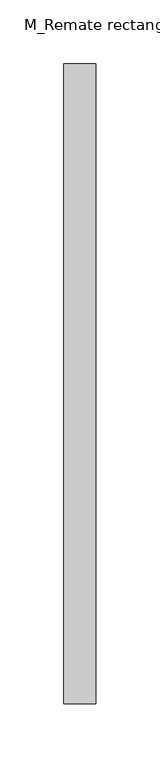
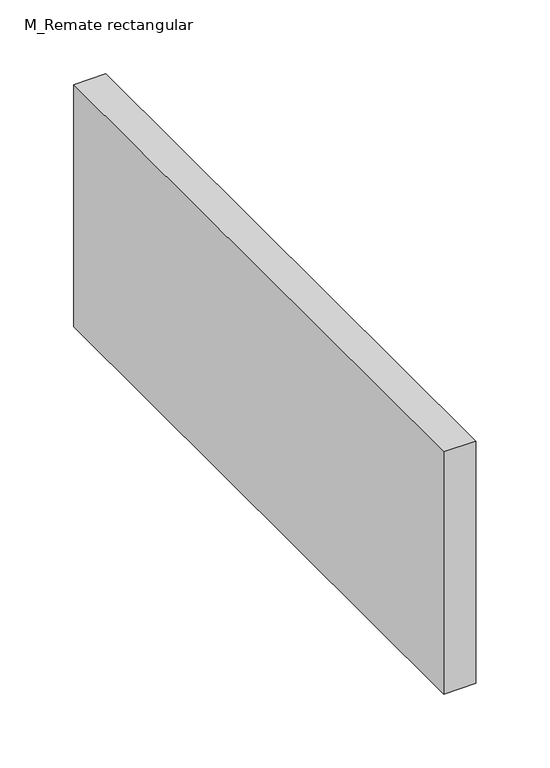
"""IFC4 building model written with IfcOpenShell, lengths in millimetres: duct fitting geometry, M_Remate rectangular : Estándar."""

from ifc_helpers import new_model, si_unit, frame, origin, place, context, project, spatial, polyline, outline, extrude, source, transform, mapped, element, save


def m_remate_rectangular_2393b184(model_context):
    return source(origin(), model_context, "Body", "SweptSolid", [
        extrude(outline(polyline([(0.0, -250.0), (0.0, 250.0), (25.0, 250.0), (25.0, -250.0), (0.0, -250.0)])), frame((0.0, 0.0, -100.0), z_axis=(0.0, 0.0, 1.0), x_axis=(1.0, 0.0, 0.0)), (0.0, 0.0, 1.0), 200.0),
    ])


if __name__ == "__main__":
    model = new_model("IFC4")
    model_context = context("Model", 3, world=origin())
    ifc_project = project(units=[si_unit("LENGTHUNIT", "METRE", prefix="MILLI")], contexts=[model_context])
    site = spatial("IfcSite", under=ifc_project)
    building = spatial("IfcBuilding", under=site)
    placement = place(None, origin())
    m_remate_rectangular_shape = m_remate_rectangular_2393b184(model_context)
    element("IfcDuctFitting", 1, ObjectType="M_Remate rectangular : Estándar", at=placement, inside=building, context=model_context, shape_type="MappedRepresentation", body=[
        mapped(m_remate_rectangular_shape, transform((0.0, 0.0, 0.0), x_axis=(1.0, 0.0, 0.0), y_axis=(0.0, 1.0, 0.0), z_axis=(0.0, 0.0, 1.0))),
    ])
    save(model, "model.ifc")
